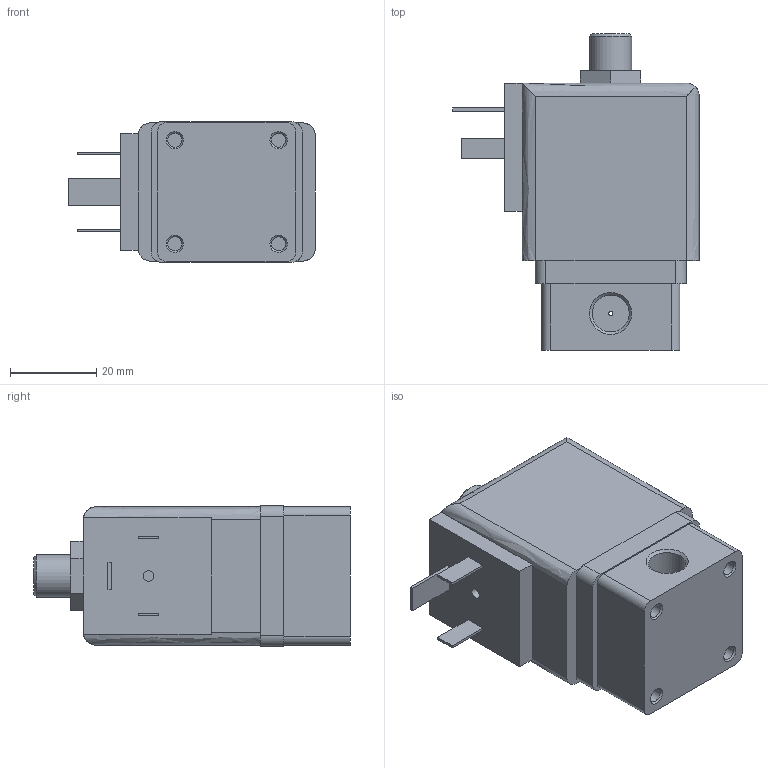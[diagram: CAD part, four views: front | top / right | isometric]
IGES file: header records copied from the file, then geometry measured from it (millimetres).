
Start section: Data from Parasolid IGES Translator 26.0.171, Copyright(c) 2006 Siemens PLM Software. All Rights Reserved.
Global section: file name: 6014-126220-3_2-way_Solenoid_Valve_direct-acting.igs; native system: By Siemens PLM Incorporated; preprocessor: XPlus GENERIC/IGES 26.0.171; author: Noname; organization: Noname; date: 20240813.162806; units: millimetre
Bounding box: 57.05 x 73.3 x 32.6 mm (x, y, z)
Surface area: 13022 mm2 (no closed solid volume)
Topology: 0 solids, 0 shells, 86 faces, 398 edges, 372 vertices
Faces by surface type: extrusion 55, revolution 31
